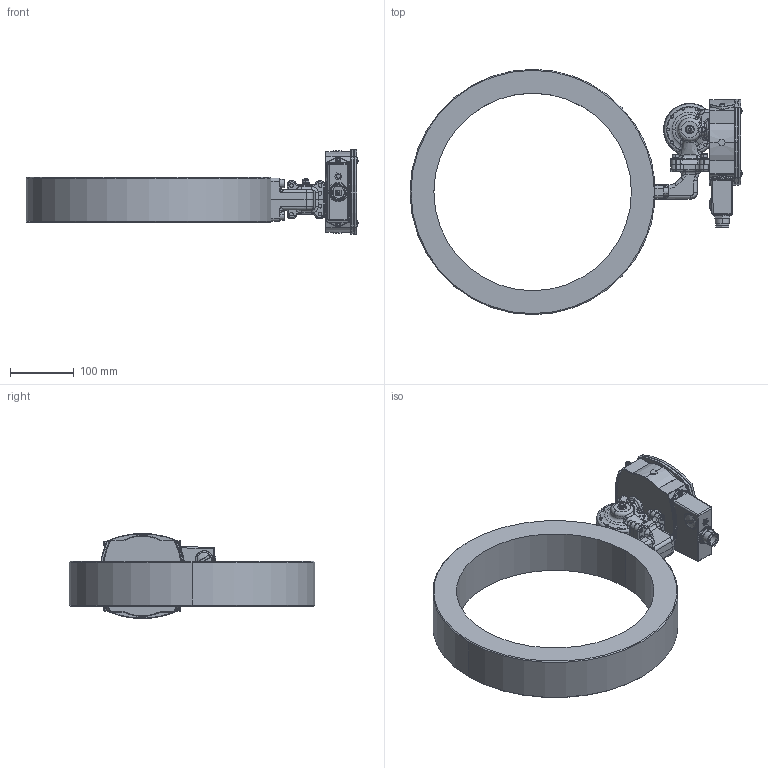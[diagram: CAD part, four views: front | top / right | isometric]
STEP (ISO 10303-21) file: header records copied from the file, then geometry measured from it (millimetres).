
FILE_DESCRIPTION (( 'STEP AP214' ), '1' );
FILE_NAME ('S FA300.STEP', '2016-09-21T07:43:08', ( 'User' ), ( 'HP' ), 'SwSTEP 2.0', 'SolidWorks 2016', '' );
FILE_SCHEMA (( 'AUTOMOTIVE_DESIGN' ));
Length unit declared in the file: millimetre
Products named in the file (35): ID_10; membranhus br; ID_1_4_4; M5 membranskruvar_1; ID_1_4_3; skruv_membranhus_1; ID_1_1_2; fj_X_E4derbricka till membranhus BR_1; ID_9; MC6S M6x22_1; ID_1_4_2; Lock kontrollerad HMAB ELETTA 20160908_1; ID_7_2; ID_6_1; Membranhus kontrollerad HMAB ELETTA 20160908_1; ID_5_2; ID_4_3; S2_25_internal_2_1; ID_3_3; kupolmutter_1; ID_2_4; m_X_E4ssingsmembran_1; ID_1_4; S hus; ID_1_4_8; S FA300; ID_14; ID_13; FA300 anslutningsror; ID_12; fa hals; ID_1_1; ID_2_2; ID_1_4_5; ID_1_2
Assembly tree (54 placements, depth 5):
  S FA300
    S hus
      ID_1_1
        ID_1_4
        ID_2_4
        ID_3_3
        ID_4_3
        ID_5_2
        ID_6_1  x4
        ID_7_2  x4
        ID_1_4_2
        ID_1_1_2
          ID_9  x2
        ID_1_4_3
        ID_1_4_4
        ID_10
        ID_1_4_5
      ID_12  x2
      ID_13
      ID_14
      ID_1_4_8
    membranhus br
      S2_25_internal_2_1
        m_X_E4ssingsmembran_1
        kupolmutter_1
      Membranhus kontrollerad HMAB ELETTA 20160908_1
      Lock kontrollerad HMAB ELETTA 20160908_1
      MC6S M6x22_1  x4
      M5 membranskruvar_1  x9
        fj_X_E4derbricka till membranhus BR_1
        skruv_membranhus_1
    fa hals
      ID_1_2
      ID_2_2  x2
    FA300 anslutningsror
Bounding box: 521 x 385 x 133.42 mm (x, y, z)
Volume: 3351985.6 mm3; surface area: 481740.2 mm2
Topology: 56 solids, 56 shells, 2415 faces, 5937 edges, 3684 vertices
Faces by surface type: plane 862, cylinder 687, bspline 585, cone 207, torus 67, sphere 7
Entity records: 101071 total; most frequent: CARTESIAN_POINT 58770, ORIENTED_EDGE 9340, DIRECTION 7192, EDGE_CURVE 4670, VERTEX_POINT 2917, AXIS2_PLACEMENT_3D 2683, EDGE_LOOP 2107, FACE_OUTER_BOUND 1892
